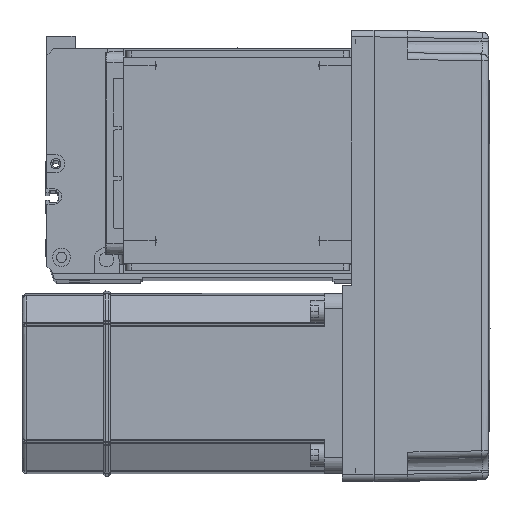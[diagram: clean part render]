
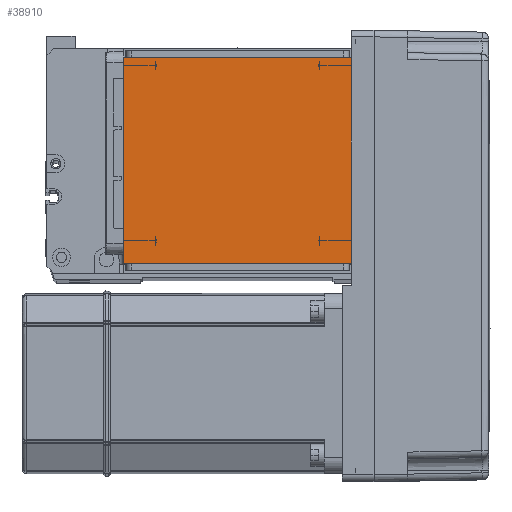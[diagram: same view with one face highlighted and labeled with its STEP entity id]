
A CAD part, top view. The second image highlights one B-rep face of the part: STEP entity #38910.
In plain terms, the highlighted planar face has unit normal (0, 0, 1).
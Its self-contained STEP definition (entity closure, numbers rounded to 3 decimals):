
#296 = ORIENTED_EDGE ( 'NONE', *, *, #27810, .T. ) ;
#3746 = CARTESIAN_POINT ( 'NONE',  ( -50.5, 111.5, 115. ) ) ;
#4210 = LINE ( 'NONE', #23870, #16003 ) ;
#10105 = VERTEX_POINT ( 'NONE', #3746 ) ;
#10544 = DIRECTION ( 'NONE',  ( -1., 0., 0. ) ) ;
#10938 = VERTEX_POINT ( 'NONE', #41499 ) ;
#13049 = CARTESIAN_POINT ( 'NONE',  ( 50.5, 111.5, 115. ) ) ;
#15277 = LINE ( 'NONE', #15503, #52493 ) ;
#15503 = CARTESIAN_POINT ( 'NONE',  ( 50.5, 122., 115. ) ) ;
#16003 = VECTOR ( 'NONE', #54110, 1000. ) ;
#19269 = CARTESIAN_POINT ( 'NONE',  ( -70.004, 20., 115. ) ) ;
#19279 = EDGE_CURVE ( 'NONE', #10105, #40002, #51085, .T. ) ;
#19496 = DIRECTION ( 'NONE',  ( 0., -1., 0. ) ) ;
#19851 = EDGE_LOOP ( 'NONE', ( #26508, #49582, #28849, #296 ) ) ;
#20714 = AXIS2_PLACEMENT_3D ( 'NONE', #36807, #46259, #24251 ) ;
#20848 = FACE_OUTER_BOUND ( 'NONE', #19851, .T. ) ;
#21606 = VERTEX_POINT ( 'NONE', #13049 ) ;
#23870 = CARTESIAN_POINT ( 'NONE',  ( -70.004, 111.5, 115. ) ) ;
#24251 = DIRECTION ( 'NONE',  ( 1., 0., 0. ) ) ;
#26508 = ORIENTED_EDGE ( 'NONE', *, *, #49122, .F. ) ;
#27810 = EDGE_CURVE ( 'NONE', #10938, #21606, #15277, .T. ) ;
#27932 = PLANE ( 'NONE',  #20714 ) ;
#28082 = EDGE_CURVE ( 'NONE', #10938, #40002, #34632, .T. ) ;
#28419 = VECTOR ( 'NONE', #10544, 1000. ) ;
#28749 = CARTESIAN_POINT ( 'NONE',  ( -50.5, 122., 115. ) ) ;
#28849 = ORIENTED_EDGE ( 'NONE', *, *, #28082, .F. ) ;
#29896 = CARTESIAN_POINT ( 'NONE',  ( -50.5, 20., 115. ) ) ;
#34234 = DIRECTION ( 'NONE',  ( 0., 1., 0. ) ) ;
#34632 = LINE ( 'NONE', #19269, #28419 ) ;
#36807 = CARTESIAN_POINT ( 'NONE',  ( 0., 0., 115. ) ) ;
#38910 = ADVANCED_FACE ( 'NONE', ( #20848 ), #27932, .T. ) ;
#40002 = VERTEX_POINT ( 'NONE', #29896 ) ;
#41499 = CARTESIAN_POINT ( 'NONE',  ( 50.5, 20., 115. ) ) ;
#46259 = DIRECTION ( 'NONE',  ( 0., 0., 1. ) ) ;
#49122 = EDGE_CURVE ( 'NONE', #10105, #21606, #4210, .T. ) ;
#49582 = ORIENTED_EDGE ( 'NONE', *, *, #19279, .T. ) ;
#51085 = LINE ( 'NONE', #28749, #56624 ) ;
#52493 = VECTOR ( 'NONE', #34234, 1000. ) ;
#54110 = DIRECTION ( 'NONE',  ( 1., 0., 0. ) ) ;
#56624 = VECTOR ( 'NONE', #19496, 1000. ) ;
